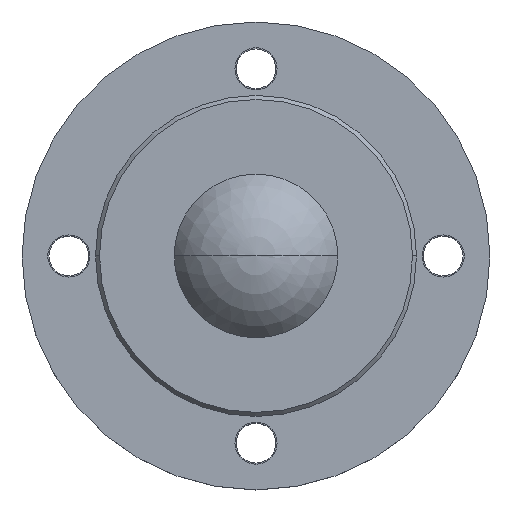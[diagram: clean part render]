
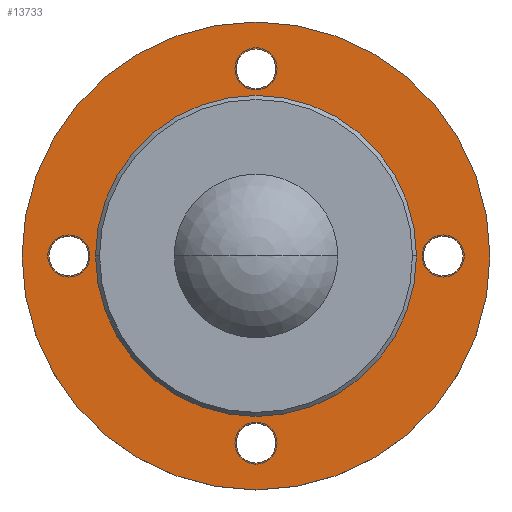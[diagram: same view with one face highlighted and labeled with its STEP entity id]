
A CAD part, top view. The second image highlights one B-rep face of the part: STEP entity #13733.
In plain terms, the highlighted planar face has unit normal (0, 0, 1).
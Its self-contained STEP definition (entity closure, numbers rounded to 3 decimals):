
#4944=CARTESIAN_POINT('',(0.,0.,88.));
#4945=DIRECTION('',(0.,0.,1.));
#4946=DIRECTION('',(0.,-1.,0.));
#4947=AXIS2_PLACEMENT_3D('',#4944,#4945,#4946);
#4949=CARTESIAN_POINT('',(0.,0.,88.));
#4950=DIRECTION('',(0.,0.,1.));
#4951=DIRECTION('',(0.,1.,0.));
#4952=AXIS2_PLACEMENT_3D('',#4949,#4950,#4951);
#4954=CARTESIAN_POINT('',(80.,0.,88.));
#4955=DIRECTION('',(0.,0.,1.));
#4956=DIRECTION('',(-1.,0.,0.));
#4957=AXIS2_PLACEMENT_3D('',#4954,#4955,#4956);
#4959=CARTESIAN_POINT('',(80.,0.,88.));
#4960=DIRECTION('',(0.,0.,1.));
#4961=DIRECTION('',(1.,0.,0.));
#4962=AXIS2_PLACEMENT_3D('',#4959,#4960,#4961);
#4964=CARTESIAN_POINT('',(0.,80.,88.));
#4965=DIRECTION('',(0.,0.,1.));
#4966=DIRECTION('',(0.,-1.,0.));
#4967=AXIS2_PLACEMENT_3D('',#4964,#4965,#4966);
#4969=CARTESIAN_POINT('',(0.,80.,88.));
#4970=DIRECTION('',(0.,0.,1.));
#4971=DIRECTION('',(0.,1.,0.));
#4972=AXIS2_PLACEMENT_3D('',#4969,#4970,#4971);
#4974=CARTESIAN_POINT('',(-80.,0.,88.));
#4975=DIRECTION('',(0.,0.,1.));
#4976=DIRECTION('',(1.,0.,0.));
#4977=AXIS2_PLACEMENT_3D('',#4974,#4975,#4976);
#4979=CARTESIAN_POINT('',(-80.,0.,88.));
#4980=DIRECTION('',(0.,0.,1.));
#4981=DIRECTION('',(-1.,0.,0.));
#4982=AXIS2_PLACEMENT_3D('',#4979,#4980,#4981);
#4984=CARTESIAN_POINT('',(0.,-80.,88.));
#4985=DIRECTION('',(0.,0.,1.));
#4986=DIRECTION('',(0.,1.,0.));
#4987=AXIS2_PLACEMENT_3D('',#4984,#4985,#4986);
#4989=CARTESIAN_POINT('',(0.,-80.,88.));
#4990=DIRECTION('',(0.,0.,1.));
#4991=DIRECTION('',(0.,-1.,0.));
#4992=AXIS2_PLACEMENT_3D('',#4989,#4990,#4991);
#4994=CARTESIAN_POINT('',(0.,0.,88.));
#4995=DIRECTION('',(0.,0.,-1.));
#4996=DIRECTION('',(-1.,0.,0.));
#4997=AXIS2_PLACEMENT_3D('',#4994,#4995,#4996);
#4999=CARTESIAN_POINT('',(0.,0.,88.));
#5000=DIRECTION('',(0.,0.,-1.));
#5001=DIRECTION('',(1.,0.,0.));
#5002=AXIS2_PLACEMENT_3D('',#4999,#5000,#5001);
#6607=CARTESIAN_POINT('',(0.,-100.,88.));
#6608=CARTESIAN_POINT('',(0.,100.,88.));
#6609=VERTEX_POINT('',#6607);
#6610=VERTEX_POINT('',#6608);
#6619=CARTESIAN_POINT('',(71.5,0.,88.));
#6620=CARTESIAN_POINT('',(88.5,0.,88.));
#6621=VERTEX_POINT('',#6619);
#6622=VERTEX_POINT('',#6620);
#6627=CARTESIAN_POINT('',(0.,71.5,88.));
#6628=CARTESIAN_POINT('',(0.,88.5,88.));
#6629=VERTEX_POINT('',#6627);
#6630=VERTEX_POINT('',#6628);
#6635=CARTESIAN_POINT('',(-71.5,0.,88.));
#6636=CARTESIAN_POINT('',(-88.5,0.,88.));
#6637=VERTEX_POINT('',#6635);
#6638=VERTEX_POINT('',#6636);
#6643=CARTESIAN_POINT('',(0.,-71.5,88.));
#6644=CARTESIAN_POINT('',(0.,-88.5,88.));
#6645=VERTEX_POINT('',#6643);
#6646=VERTEX_POINT('',#6644);
#6657=CARTESIAN_POINT('',(-68.613,0.,88.));
#6658=CARTESIAN_POINT('',(68.613,0.,88.));
#6659=VERTEX_POINT('',#6657);
#6660=VERTEX_POINT('',#6658);
#13694=CARTESIAN_POINT('',(0.,0.,88.));
#13695=DIRECTION('',(0.,0.,1.));
#13696=DIRECTION('',(0.,-1.,0.));
#13697=AXIS2_PLACEMENT_3D('',#13694,#13695,#13696);
#13698=PLANE('',#13697);
#13699=ORIENTED_EDGE('',*,*,#13674,.F.);
#13700=ORIENTED_EDGE('',*,*,#13688,.F.);
#13701=EDGE_LOOP('',(#13699,#13700));
#13702=FACE_OUTER_BOUND('',#13701,.F.);
#13704=ORIENTED_EDGE('',*,*,#13703,.T.);
#13706=ORIENTED_EDGE('',*,*,#13705,.T.);
#13707=EDGE_LOOP('',(#13704,#13706));
#13708=FACE_BOUND('',#13707,.F.);
#13710=ORIENTED_EDGE('',*,*,#13709,.T.);
#13712=ORIENTED_EDGE('',*,*,#13711,.T.);
#13713=EDGE_LOOP('',(#13710,#13712));
#13714=FACE_BOUND('',#13713,.F.);
#13716=ORIENTED_EDGE('',*,*,#13715,.T.);
#13718=ORIENTED_EDGE('',*,*,#13717,.T.);
#13719=EDGE_LOOP('',(#13716,#13718));
#13720=FACE_BOUND('',#13719,.F.);
#13722=ORIENTED_EDGE('',*,*,#13721,.T.);
#13724=ORIENTED_EDGE('',*,*,#13723,.T.);
#13725=EDGE_LOOP('',(#13722,#13724));
#13726=FACE_BOUND('',#13725,.F.);
#13728=ORIENTED_EDGE('',*,*,#13727,.F.);
#13730=ORIENTED_EDGE('',*,*,#13729,.F.);
#13731=EDGE_LOOP('',(#13728,#13730));
#13732=FACE_BOUND('',#13731,.F.);
#13733=ADVANCED_FACE('',(#13702,#13708,#13714,#13720,#13726,#13732),#13698,.T.);
#4948=CIRCLE('',#4947,100.);
#4953=CIRCLE('',#4952,100.);
#4958=CIRCLE('',#4957,8.5);
#4963=CIRCLE('',#4962,8.5);
#4968=CIRCLE('',#4967,8.5);
#4973=CIRCLE('',#4972,8.5);
#4978=CIRCLE('',#4977,8.5);
#4983=CIRCLE('',#4982,8.5);
#4988=CIRCLE('',#4987,8.5);
#4993=CIRCLE('',#4992,8.5);
#4998=CIRCLE('',#4997,68.613);
#5003=CIRCLE('',#5002,68.613);
#13674=EDGE_CURVE('',#6609,#6610,#4948,.T.);
#13688=EDGE_CURVE('',#6610,#6609,#4953,.T.);
#13703=EDGE_CURVE('',#6621,#6622,#4958,.T.);
#13705=EDGE_CURVE('',#6622,#6621,#4963,.T.);
#13709=EDGE_CURVE('',#6629,#6630,#4968,.T.);
#13711=EDGE_CURVE('',#6630,#6629,#4973,.T.);
#13715=EDGE_CURVE('',#6637,#6638,#4978,.T.);
#13717=EDGE_CURVE('',#6638,#6637,#4983,.T.);
#13721=EDGE_CURVE('',#6645,#6646,#4988,.T.);
#13723=EDGE_CURVE('',#6646,#6645,#4993,.T.);
#13727=EDGE_CURVE('',#6659,#6660,#4998,.T.);
#13729=EDGE_CURVE('',#6660,#6659,#5003,.T.);
